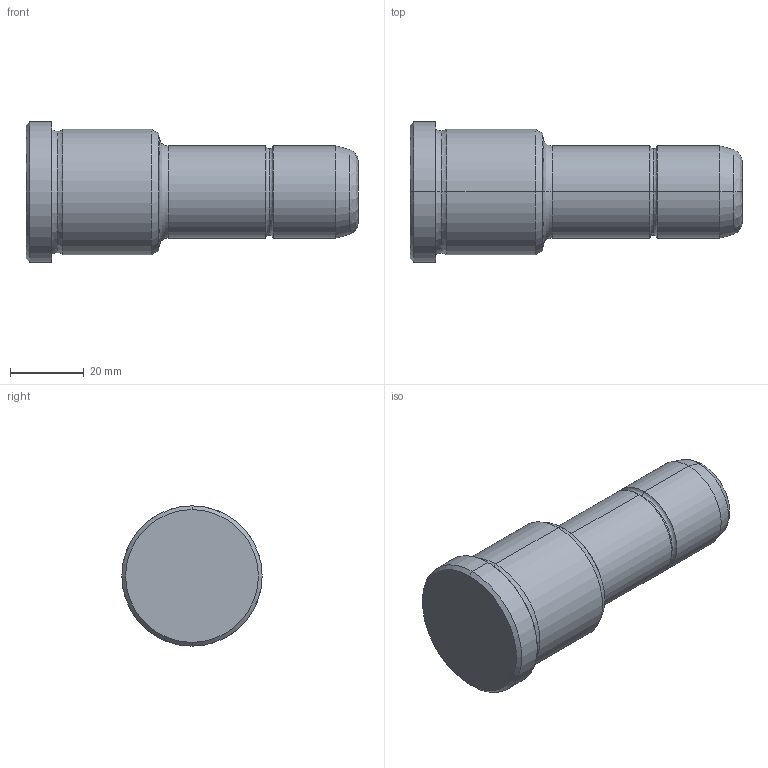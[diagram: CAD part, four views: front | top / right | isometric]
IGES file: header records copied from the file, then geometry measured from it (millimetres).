
Start section: START RECORD GO HERE.
Global section: file name: 351-25X36X90.igs; native system: DASSAULT SYSTEMES CATIA V5 R20 - www.3ds.com; preprocessor: CATIA Version 5 Release 20 ; author: Utente; organization: NB04-ASUS; date: 20210828.112045; units: millimetre
Bounding box: 90 x 38 x 38 mm (x, y, z)
Surface area: 10081.4 mm2 (no closed solid volume)
Topology: 0 solids, 0 shells, 30 faces, 172 edges, 172 vertices
Faces by surface type: revolution 26, plane 4
